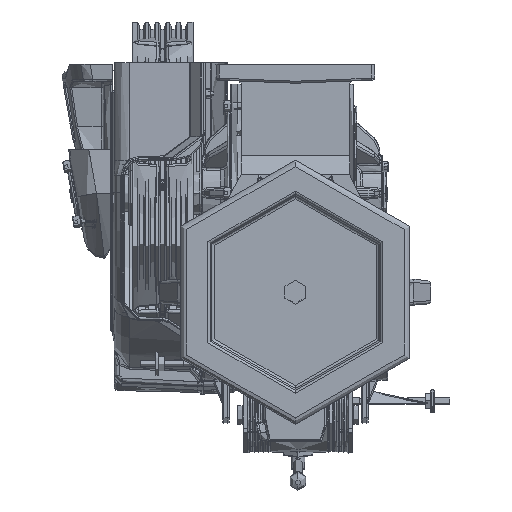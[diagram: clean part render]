
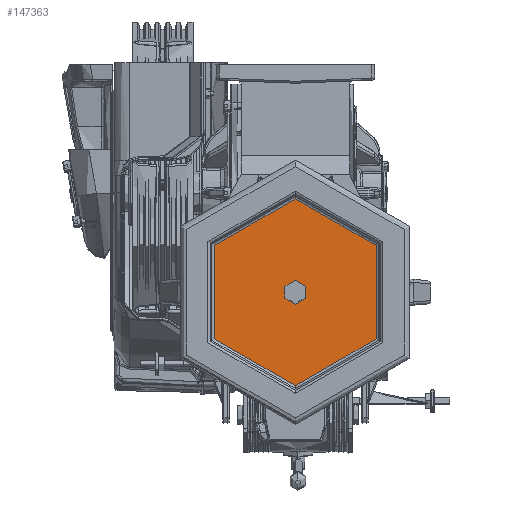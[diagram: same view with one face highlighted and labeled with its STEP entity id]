
A CAD part, front view. The second image highlights one B-rep face of the part: STEP entity #147363.
In plain terms, the highlighted planar face has unit normal (0, -1, 0).
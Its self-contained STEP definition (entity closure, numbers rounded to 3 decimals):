
#1068 = ORIENTED_EDGE ( 'NONE', *, *, #219634, .T. ) ;
#1627 = DIRECTION ( 'NONE',  ( 0., -1., 0. ) ) ;
#13272 = FACE_BOUND ( 'NONE', #91523, .T. ) ;
#21050 = DIRECTION ( 'NONE',  ( 0., 0., -1. ) ) ;
#21927 = VERTEX_POINT ( 'NONE', #139445 ) ;
#25881 = CARTESIAN_POINT ( 'NONE',  ( -385.983, -500.278, -150. ) ) ;
#30580 = DIRECTION ( 'NONE',  ( 0., 0., -1. ) ) ;
#39236 = PLANE ( 'NONE',  #233101 ) ;
#43938 = EDGE_CURVE ( 'NONE', #146777, #21927, #194857, .T. ) ;
#48929 = CARTESIAN_POINT ( 'NONE',  ( -385.983, -500.278, -291.34 ) ) ;
#50583 = EDGE_LOOP ( 'NONE', ( #102344, #1068 ) ) ;
#71371 = CARTESIAN_POINT ( 'NONE',  ( -385.983, -500.278, -150. ) ) ;
#76968 = EDGE_CURVE ( 'NONE', #21927, #146777, #227045, .T. ) ;
#83539 = CARTESIAN_POINT ( 'NONE',  ( -244.643, -500.278, -150. ) ) ;
#91523 = EDGE_LOOP ( 'NONE', ( #302277, #191610 ) ) ;
#93847 = CIRCLE ( 'NONE', #191627, 141.34 ) ;
#96043 = DIRECTION ( 'NONE',  ( 0., -1., 0. ) ) ;
#102344 = ORIENTED_EDGE ( 'NONE', *, *, #152770, .T. ) ;
#139445 = CARTESIAN_POINT ( 'NONE',  ( -385.983, -500.278, -131.889 ) ) ;
#146777 = VERTEX_POINT ( 'NONE', #175984 ) ;
#147363 = ADVANCED_FACE ( 'NONE', ( #222595, #13272 ), #39236, .T. ) ;
#152770 = EDGE_CURVE ( 'NONE', #186163, #282437, #186712, .T. ) ;
#154781 = DIRECTION ( 'NONE',  ( 0., 0., -1. ) ) ;
#175984 = CARTESIAN_POINT ( 'NONE',  ( -385.983, -500.278, -168.111 ) ) ;
#176772 = DIRECTION ( 'NONE',  ( 0., -1., 0. ) ) ;
#186163 = VERTEX_POINT ( 'NONE', #48929 ) ;
#186712 = CIRCLE ( 'NONE', #269466, 141.34 ) ;
#188066 = AXIS2_PLACEMENT_3D ( 'NONE', #258191, #1627, #30580 ) ;
#191610 = ORIENTED_EDGE ( 'NONE', *, *, #43938, .F. ) ;
#191627 = AXIS2_PLACEMENT_3D ( 'NONE', #25881, #96043, #213711 ) ;
#194857 = CIRCLE ( 'NONE', #204702, 18.111 ) ;
#204702 = AXIS2_PLACEMENT_3D ( 'NONE', #71371, #251685, #21050 ) ;
#213711 = DIRECTION ( 'NONE',  ( 0., 0., -1. ) ) ;
#219634 = EDGE_CURVE ( 'NONE', #282437, #186163, #93847, .T. ) ;
#222595 = FACE_OUTER_BOUND ( 'NONE', #50583, .T. ) ;
#227045 = CIRCLE ( 'NONE', #188066, 18.111 ) ;
#230245 = CARTESIAN_POINT ( 'NONE',  ( -385.983, -500.278, -8.66 ) ) ;
#233101 = AXIS2_PLACEMENT_3D ( 'NONE', #83539, #176772, #269895 ) ;
#247907 = CARTESIAN_POINT ( 'NONE',  ( -385.983, -500.278, -150. ) ) ;
#251685 = DIRECTION ( 'NONE',  ( 0., -1., 0. ) ) ;
#258191 = CARTESIAN_POINT ( 'NONE',  ( -385.983, -500.278, -150. ) ) ;
#269466 = AXIS2_PLACEMENT_3D ( 'NONE', #247907, #270832, #154781 ) ;
#269895 = DIRECTION ( 'NONE',  ( 0., 0., -1. ) ) ;
#270832 = DIRECTION ( 'NONE',  ( 0., -1., 0. ) ) ;
#282437 = VERTEX_POINT ( 'NONE', #230245 ) ;
#302277 = ORIENTED_EDGE ( 'NONE', *, *, #76968, .F. ) ;
